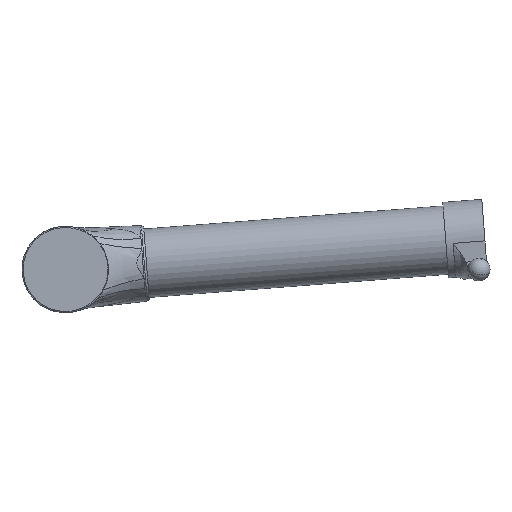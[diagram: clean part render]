
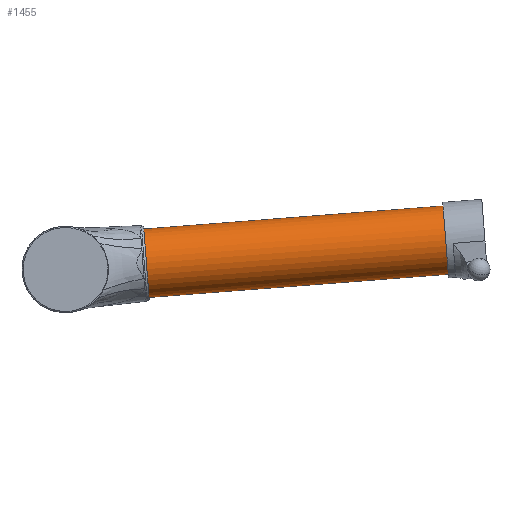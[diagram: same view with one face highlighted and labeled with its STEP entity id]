
A CAD part, front view. The second image highlights one B-rep face of the part: STEP entity #1455.
In plain terms, the highlighted cylindrical face has radius 29 mm (diameter 58 mm), a partial arc.
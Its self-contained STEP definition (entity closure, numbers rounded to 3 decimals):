
#277 = CIRCLE ( 'NONE', #7219, 29. ) ;
#343 = CARTESIAN_POINT ( 'NONE',  ( 521.998, 0., -250.131 ) ) ;
#908 = VECTOR ( 'NONE', #11316, 1000. ) ;
#1274 = CARTESIAN_POINT ( 'NONE',  ( 543.716, 0., -277.54 ) ) ;
#1455 = ADVANCED_FACE ( 'NONE', ( #15637 ), #11127, .T. ) ;
#1475 = CARTESIAN_POINT ( 'NONE',  ( 541.483, 0., -248.626 ) ) ;
#1688 = EDGE_LOOP ( 'NONE', ( #7842, #2220, #12773, #12902 ) ) ;
#1948 = EDGE_CURVE ( 'NONE', #13575, #13861, #2998, .T. ) ;
#2037 = DIRECTION ( 'NONE',  ( 0.077, 0., -0.997 ) ) ;
#2220 = ORIENTED_EDGE ( 'NONE', *, *, #13445, .T. ) ;
#2549 = VECTOR ( 'NONE', #10266, 1000. ) ;
#2954 = CARTESIAN_POINT ( 'NONE',  ( 266.562, 0., -240.773 ) ) ;
#2998 = CIRCLE ( 'NONE', #11975, 29. ) ;
#3270 = EDGE_CURVE ( 'NONE', #4466, #10902, #277, .T. ) ;
#4419 = EDGE_CURVE ( 'NONE', #4466, #13861, #4905, .T. ) ;
#4466 = VERTEX_POINT ( 'NONE', #10111 ) ;
#4905 = LINE ( 'NONE', #1274, #908 ) ;
#6383 = DIRECTION ( 'NONE',  ( -0.997, 0., -0.077 ) ) ;
#7219 = AXIS2_PLACEMENT_3D ( 'NONE', #343, #10152, #9920 ) ;
#7842 = ORIENTED_EDGE ( 'NONE', *, *, #3270, .T. ) ;
#7991 = DIRECTION ( 'NONE',  ( 0.997, 0., 0.077 ) ) ;
#8238 = CARTESIAN_POINT ( 'NONE',  ( 268.795, 0., -269.687 ) ) ;
#9920 = DIRECTION ( 'NONE',  ( 0.077, 0., -0.997 ) ) ;
#10111 = CARTESIAN_POINT ( 'NONE',  ( 524.231, 0., -279.045 ) ) ;
#10152 = DIRECTION ( 'NONE',  ( -0.997, 0., -0.077 ) ) ;
#10266 = DIRECTION ( 'NONE',  ( -0.997, 0., -0.077 ) ) ;
#10345 = CARTESIAN_POINT ( 'NONE',  ( 539.25, 0., -219.712 ) ) ;
#10902 = VERTEX_POINT ( 'NONE', #12352 ) ;
#11127 = CYLINDRICAL_SURFACE ( 'NONE', #14539, 29. ) ;
#11284 = DIRECTION ( 'NONE',  ( 0.077, 0., -0.997 ) ) ;
#11316 = DIRECTION ( 'NONE',  ( -0.997, 0., -0.077 ) ) ;
#11543 = LINE ( 'NONE', #10345, #2549 ) ;
#11860 = CARTESIAN_POINT ( 'NONE',  ( 271.028, 0., -298.601 ) ) ;
#11975 = AXIS2_PLACEMENT_3D ( 'NONE', #8238, #7991, #2037 ) ;
#12352 = CARTESIAN_POINT ( 'NONE',  ( 519.765, 0., -221.217 ) ) ;
#12773 = ORIENTED_EDGE ( 'NONE', *, *, #1948, .T. ) ;
#12902 = ORIENTED_EDGE ( 'NONE', *, *, #4419, .F. ) ;
#13445 = EDGE_CURVE ( 'NONE', #10902, #13575, #11543, .T. ) ;
#13575 = VERTEX_POINT ( 'NONE', #2954 ) ;
#13861 = VERTEX_POINT ( 'NONE', #11860 ) ;
#14539 = AXIS2_PLACEMENT_3D ( 'NONE', #1475, #6383, #11284 ) ;
#15637 = FACE_OUTER_BOUND ( 'NONE', #1688, .T. ) ;
